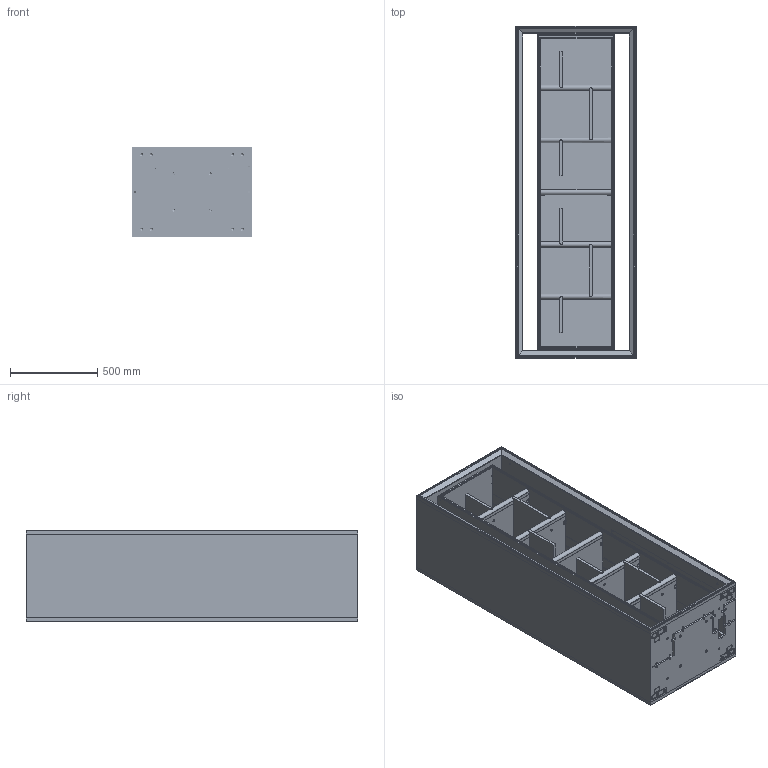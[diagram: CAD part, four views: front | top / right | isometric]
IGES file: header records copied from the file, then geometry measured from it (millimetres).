
Global section: file name: 80050; native system: Autodesk Inventor 2014; preprocessor: unknown; author: Robertom; date: 20140526.111537; units: millimetre
Bounding box: 690 x 1900 x 520 mm (x, y, z)
Volume: 158921156.1 mm3; surface area: 17874916.5 mm2
Topology: 89 solids, 89 shells, 2992 faces, 8794 edges, 6076 vertices
Faces by surface type: bspline 2992
